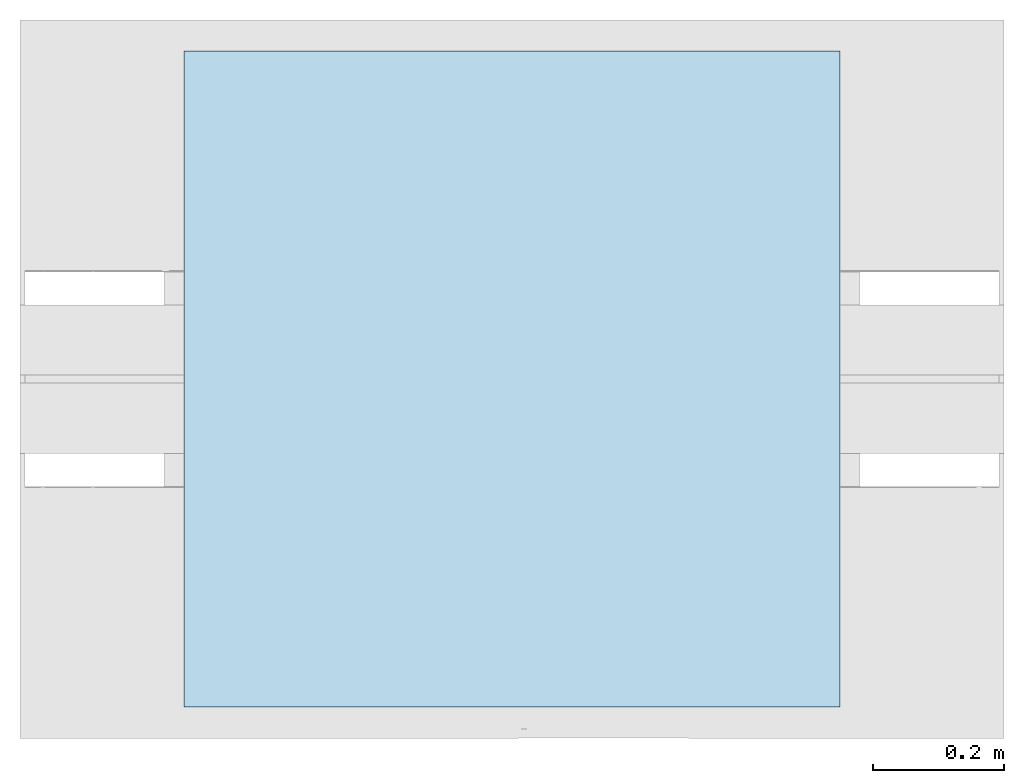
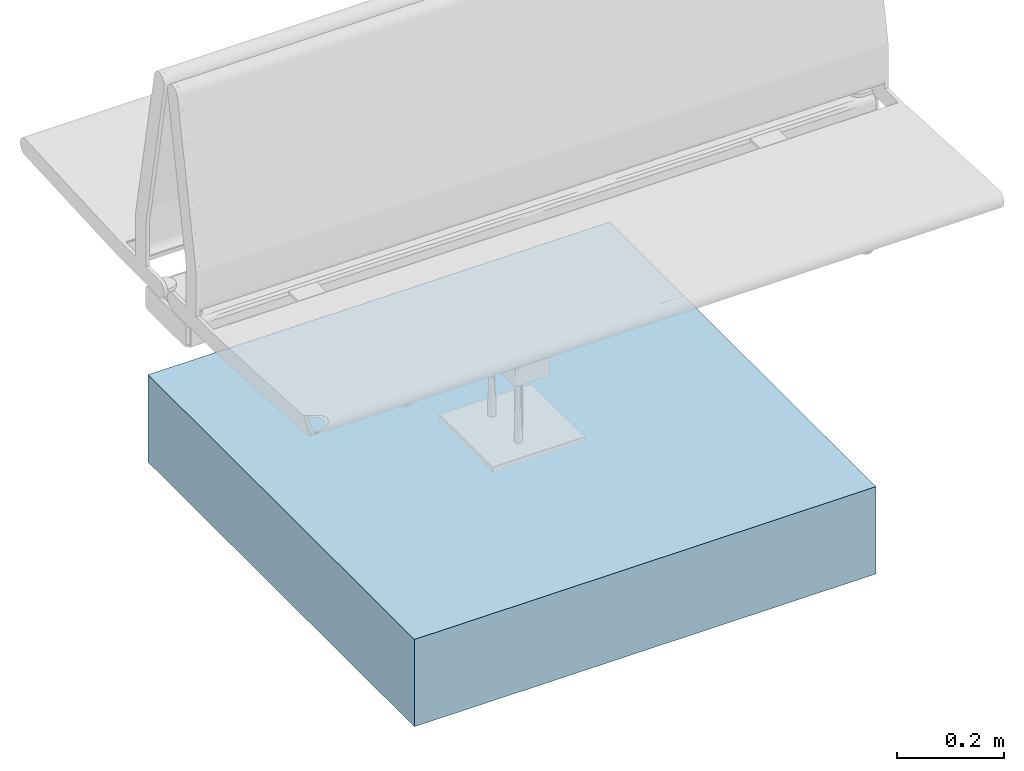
# One storey, incomplete: 1 slab.
"""IFC4 building model written with IfcOpenShell, lengths in metres."""

from ifc_helpers import new_model, entity, si_unit, converted_unit, direction, frame, origin, origin_2d_with_axis, place, context, subcontext, project, spatial, rectangle, extrude, material, type_object, element, save


model = new_model("IFC4")

# Units and contexts
model_context = context("Model", 3, precision=1e-05, world=origin(), true_north=direction((6.123031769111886e-17, 1.0)))
body_context = subcontext(model_context, "Body", "Model", "MODEL_VIEW")
ifc_project = project(units=[si_unit("LENGTHUNIT", "METRE"), converted_unit("PLANEANGLEUNIT", "DEGREE", entity("IfcPlaneAngleMeasure", 0.017453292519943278), si_unit("PLANEANGLEUNIT", "RADIAN"), dimensions=[0, 0, 0, 0, 0, 0, 0]), si_unit("AREAUNIT", "SQUARE_METRE")], contexts=[model_context])

# Site, building, storey
site_placement = place(None, origin())
site = spatial("IfcSite", under=ifc_project, at=site_placement, Name="Default", CompositionType="ELEMENT")
building_placement = place(site_placement, origin())
building = spatial("IfcBuilding", under=site, at=building_placement, CompositionType="ELEMENT")
storey_placement = place(building_placement, origin())
storey = spatial("IfcBuildingStorey", under=building, at=storey_placement, Name="Ebene 0", CompositionType="ELEMENT", Elevation=0.0)

# Slab
ifc_material = material(Name="DB_Fertigbeton", Category="DB_Beton")
slab_type = type_object("IfcSlabType", Name="DB_Calidum_light_Fundament:DB_Calidum_light_Fundament", PredefinedType="BASESLAB", material=ifc_material)
slab_placement = place(storey_placement, origin())
element("IfcSlab", 1, at=slab_placement, inside=storey, type_object=slab_type, Name="DB_Calidum_light_Fundament:DB_Calidum_light_Fundament", ObjectType="DB_Calidum_light_Fundament:DB_Calidum_light_Fundament", PredefinedType="BASESLAB", context=body_context, shape_type="SweptSolid", body=[
    extrude(rectangle(XDim=0.9999999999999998, YDim=0.9999999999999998, at=origin_2d_with_axis()), frame((0.0, 0.0, -0.36199999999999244), z_axis=(0.0, 0.0, 1.0), x_axis=(0.0, 1.0, 0.0)), (0.0, 0.0, 1.0), 0.20000000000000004),
])

save(model, "model.ifc")
